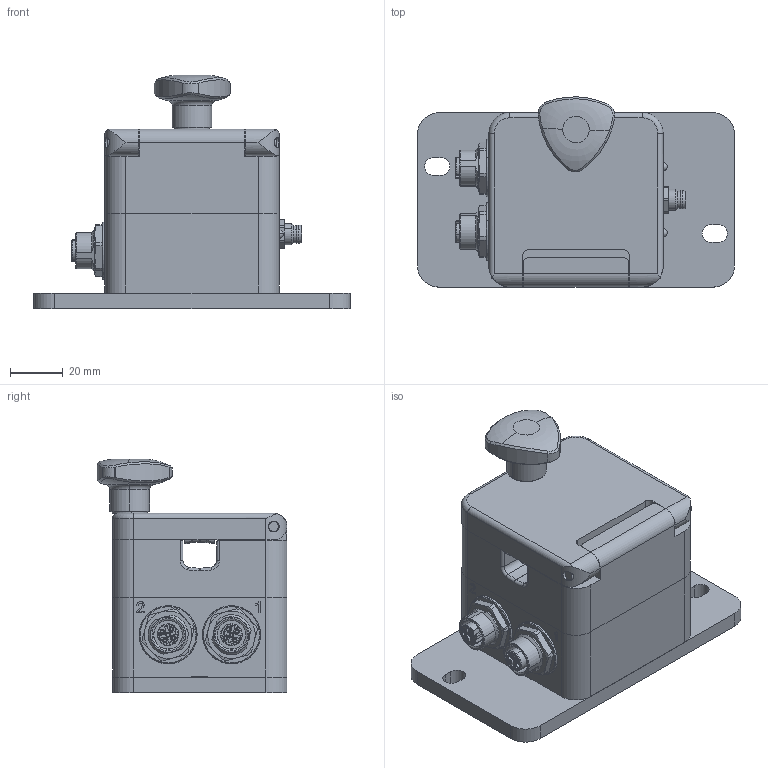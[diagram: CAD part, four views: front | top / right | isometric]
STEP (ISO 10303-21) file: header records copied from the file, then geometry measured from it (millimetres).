
FILE_DESCRIPTION (( 'STEP AP203' ), '1' );
FILE_NAME ('BCU0500_BP.STEP', '2025-10-16T14:04:14', ( '' ), ( '' ), 'SwSTEP 2.0', 'SolidWorks 2023', '' );
FILE_SCHEMA (( 'CONFIG_CONTROL_DESIGN' ));
Length unit declared in the file: inch
Products named in the file (1): BCU0500_BP
Bounding box: 120 x 71.88 x 88.5 mm (x, y, z)
Volume: 219592.6 mm3; surface area: 79586.3 mm2
Topology: 18 solids, 31 shells, 1283 faces, 3166 edges, 2005 vertices
Faces by surface type: plane 436, cylinder 435, bspline 186, cone 151, torus 66, sphere 9
Entity records: 48251 total; most frequent: CARTESIAN_POINT 18840, ORIENTED_EDGE 6236, DIRECTION 5785, EDGE_CURVE 3118, AXIS2_PLACEMENT_3D 2201, VERTEX_POINT 1993, EDGE_LOOP 1443, VECTOR 1383
